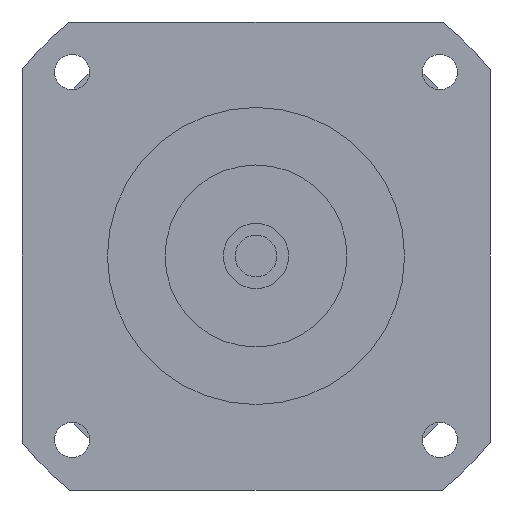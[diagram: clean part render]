
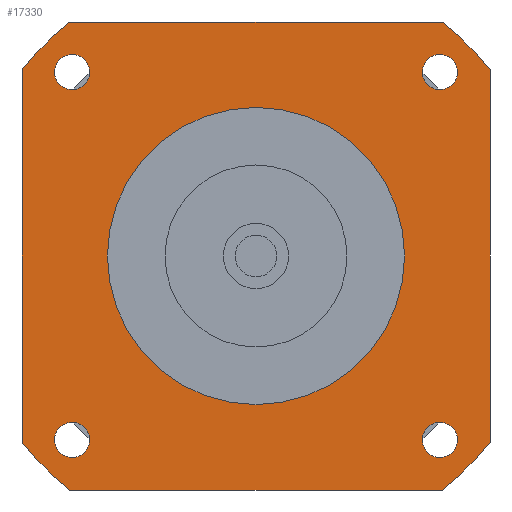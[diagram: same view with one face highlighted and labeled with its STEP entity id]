
A CAD part, left-side view. The second image highlights one B-rep face of the part: STEP entity #17330.
In plain terms, the highlighted planar face has unit normal (-1, 0, 0) as drawn and (0, 0, -1) by its records, which use the part's own axes.
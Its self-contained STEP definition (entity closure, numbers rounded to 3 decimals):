
#12990=CARTESIAN_POINT('',(90.,71.589,-66.7));
#13000=VERTEX_POINT('',#12990);
#13050=CARTESIAN_POINT('',(90.,90.,-66.7));
#13060=DIRECTION('',(0.,-1.,0.));
#13070=VECTOR('',#13060,1000.);
#13080=LINE('',#13050,#13070);
#13090=CARTESIAN_POINT('',(90.,-71.589,-66.7));
#13100=VERTEX_POINT('',#13090);
#13110=EDGE_CURVE('',#13000,#13100,#13080,.T.);
#13500=CARTESIAN_POINT('',(63.961,-70.711,-66.7));
#13510=VERTEX_POINT('',#13500);
#13540=CARTESIAN_POINT('',(70.711,-70.711,-66.7));
#13550=DIRECTION('',(0.,0.,-1.));
#13560=DIRECTION('',(1.,0.,0.));
#13570=AXIS2_PLACEMENT_3D('',#13540,#13550,#13560);
#13580=CIRCLE('',#13570,6.75);
#13590=CARTESIAN_POINT('',(77.461,-70.711,-66.7));
#13600=VERTEX_POINT('',#13590);
#13610=EDGE_CURVE('',#13600,#13510,#13580,.T.);
#15850=CARTESIAN_POINT('',(70.711,63.961,-66.7));
#15860=VERTEX_POINT('',#15850);
#15890=CARTESIAN_POINT('',(70.711,70.711,-66.7));
#15900=DIRECTION('',(0.,0.,-1.));
#15910=DIRECTION('',(0.,1.,0.));
#15920=AXIS2_PLACEMENT_3D('',#15890,#15900,#15910);
#15930=CIRCLE('',#15920,6.75);
#15940=CARTESIAN_POINT('',(70.711,77.461,-66.7));
#15950=VERTEX_POINT('',#15940);
#15960=EDGE_CURVE('',#15950,#15860,#15930,.T.);
#16080=CARTESIAN_POINT('',(90.,90.,-66.7));
#16090=DIRECTION('',(0.,0.,-1.));
#16100=DIRECTION('',(1.,0.,0.));
#16110=AXIS2_PLACEMENT_3D('',#16080,#16090,#16100);
#16120=PLANE('',#16110);
#16130=CARTESIAN_POINT('',(-70.711,-70.711,-66.7));
#16140=DIRECTION('',(0.,0.,-1.));
#16150=DIRECTION('',(0.,-1.,0.));
#16160=AXIS2_PLACEMENT_3D('',#16130,#16140,#16150);
#16170=CIRCLE('',#16160,6.75);
#16180=CARTESIAN_POINT('',(-70.711,-77.461,-66.7));
#16190=VERTEX_POINT('',#16180);
#16200=CARTESIAN_POINT('',(-70.711,-63.961,-66.7));
#16210=VERTEX_POINT('',#16200);
#16220=EDGE_CURVE('',#16190,#16210,#16170,.T.);
#16230=ORIENTED_EDGE('',*,*,#16220,.F.);
#16240=EDGE_CURVE('',#16210,#16190,#16170,.T.);
#16250=ORIENTED_EDGE('',*,*,#16240,.F.);
#16260=EDGE_LOOP('',(#16250,#16230));
#16270=FACE_BOUND('',#16260,.T.);
#16280=CARTESIAN_POINT('',(-70.711,70.711,-66.7));
#16290=DIRECTION('',(0.,0.,-1.));
#16300=DIRECTION('',(-1.,0.,0.));
#16310=AXIS2_PLACEMENT_3D('',#16280,#16290,#16300);
#16320=CIRCLE('',#16310,6.75);
#16330=CARTESIAN_POINT('',(-77.461,70.711,-66.7));
#16340=VERTEX_POINT('',#16330);
#16350=CARTESIAN_POINT('',(-63.961,70.711,-66.7));
#16360=VERTEX_POINT('',#16350);
#16370=EDGE_CURVE('',#16340,#16360,#16320,.T.);
#16380=ORIENTED_EDGE('',*,*,#16370,.F.);
#16390=EDGE_CURVE('',#16360,#16340,#16320,.T.);
#16400=ORIENTED_EDGE('',*,*,#16390,.F.);
#16410=EDGE_LOOP('',(#16400,#16380));
#16420=FACE_BOUND('',#16410,.T.);
#16430=ORIENTED_EDGE('',*,*,#15960,.F.);
#16440=EDGE_CURVE('',#15860,#15950,#15930,.T.);
#16450=ORIENTED_EDGE('',*,*,#16440,.F.);
#16460=EDGE_LOOP('',(#16450,#16430));
#16470=FACE_BOUND('',#16460,.T.);
#16480=CARTESIAN_POINT('',(0.,0.,
-66.7));
#16490=DIRECTION('',(0.,0.,1.));
#16500=DIRECTION('',(0.,1.,0.));
#16510=AXIS2_PLACEMENT_3D('',#16480,#16490,#16500);
#16520=CIRCLE('',#16510,57.15);
#16530=CARTESIAN_POINT('',(-57.15,0.,-66.7));
#16540=VERTEX_POINT('',#16530);
#16550=CARTESIAN_POINT('',(57.15,0.,-66.7));
#16560=VERTEX_POINT('',#16550);
#16570=EDGE_CURVE('',#16540,#16560,#16520,.T.);
#16580=ORIENTED_EDGE('',*,*,#16570,.T.);
#16590=CARTESIAN_POINT('',(0.,57.15,-66.7));
#16600=VERTEX_POINT('',#16590);
#16610=EDGE_CURVE('',#16600,#16540,#16520,.T.);
#16620=ORIENTED_EDGE('',*,*,#16610,.T.);
#16630=EDGE_CURVE('',#16560,#16600,#16520,.T.);
#16640=ORIENTED_EDGE('',*,*,#16630,.T.);
#16650=EDGE_LOOP('',(#16640,#16620,#16580));
#16660=FACE_BOUND('',#16650,.T.);
#16670=CARTESIAN_POINT('',(-90.,90.,-66.7));
#16680=DIRECTION('',(1.,0.,0.));
#16690=VECTOR('',#16680,1000.);
#16700=LINE('',#16670,#16690);
#16710=CARTESIAN_POINT('',(-71.589,90.,-66.7));
#16720=VERTEX_POINT('',#16710);
#16730=CARTESIAN_POINT('',(71.589,90.,-66.7));
#16740=VERTEX_POINT('',#16730);
#16750=EDGE_CURVE('',#16720,#16740,#16700,.T.);
#16760=ORIENTED_EDGE('',*,*,#16750,.T.);
#16770=CARTESIAN_POINT('',(0.,0.,
-66.7));
#16780=DIRECTION('',(0.,0.,-1.));
#16790=DIRECTION('',(1.,0.,0.));
#16800=AXIS2_PLACEMENT_3D('',#16770,#16780,#16790);
#16810=CIRCLE('',#16800,115.);
#16820=CARTESIAN_POINT('',(-90.,71.589,-66.7));
#16830=VERTEX_POINT('',#16820);
#16840=EDGE_CURVE('',#16830,#16720,#16810,.T.);
#16850=ORIENTED_EDGE('',*,*,#16840,.T.);
#16860=CARTESIAN_POINT('',(-90.,-90.,-66.7));
#16870=DIRECTION('',(0.,1.,0.));
#16880=VECTOR('',#16870,1000.);
#16890=LINE('',#16860,#16880);
#16900=CARTESIAN_POINT('',(-90.,-71.589,-66.7));
#16910=VERTEX_POINT('',#16900);
#16920=EDGE_CURVE('',#16910,#16830,#16890,.T.);
#16930=ORIENTED_EDGE('',*,*,#16920,.T.);
#16940=CARTESIAN_POINT('',(0.,0.,
-66.7));
#16950=DIRECTION('',(0.,0.,-1.));
#16960=DIRECTION('',(1.,0.,0.));
#16970=AXIS2_PLACEMENT_3D('',#16940,#16950,#16960);
#16980=CIRCLE('',#16970,115.);
#16990=CARTESIAN_POINT('',(-71.589,-90.,-66.7));
#17000=VERTEX_POINT('',#16990);
#17010=EDGE_CURVE('',#17000,#16910,#16980,.T.);
#17020=ORIENTED_EDGE('',*,*,#17010,.T.);
#17030=CARTESIAN_POINT('',(90.,-90.,-66.7));
#17040=DIRECTION('',(-1.,0.,0.));
#17050=VECTOR('',#17040,1000.);
#17060=LINE('',#17030,#17050);
#17070=CARTESIAN_POINT('',(71.589,-90.,-66.7));
#17080=VERTEX_POINT('',#17070);
#17090=EDGE_CURVE('',#17080,#17000,#17060,.T.);
#17100=ORIENTED_EDGE('',*,*,#17090,.T.);
#17110=CARTESIAN_POINT('',(0.,0.,
-66.7));
#17120=DIRECTION('',(0.,0.,-1.));
#17130=DIRECTION('',(1.,0.,0.));
#17140=AXIS2_PLACEMENT_3D('',#17110,#17120,#17130);
#17150=CIRCLE('',#17140,115.);
#17160=EDGE_CURVE('',#13100,#17080,#17150,.T.);
#17170=ORIENTED_EDGE('',*,*,#17160,.T.);
#17180=ORIENTED_EDGE('',*,*,#13110,.T.);
#17190=CARTESIAN_POINT('',(0.,0.,
-66.7));
#17200=DIRECTION('',(0.,0.,-1.));
#17210=DIRECTION('',(1.,0.,0.));
#17220=AXIS2_PLACEMENT_3D('',#17190,#17200,#17210);
#17230=CIRCLE('',#17220,115.);
#17240=EDGE_CURVE('',#16740,#13000,#17230,.T.);
#17250=ORIENTED_EDGE('',*,*,#17240,.T.);
#17260=EDGE_LOOP('',(#17250,#17180,#17170,#17100,#17020,#16930,#16850,
#16760));
#17270=FACE_OUTER_BOUND('',#17260,.T.);
#17280=ORIENTED_EDGE('',*,*,#13610,.F.);
#17290=EDGE_CURVE('',#13510,#13600,#13580,.T.);
#17300=ORIENTED_EDGE('',*,*,#17290,.F.);
#17310=EDGE_LOOP('',(#17300,#17280));
#17320=FACE_BOUND('',#17310,.T.);
#17330=ADVANCED_FACE('',(#16270,#16420,#16470,#16660,#17270,#17320),
#16120,.T.);
